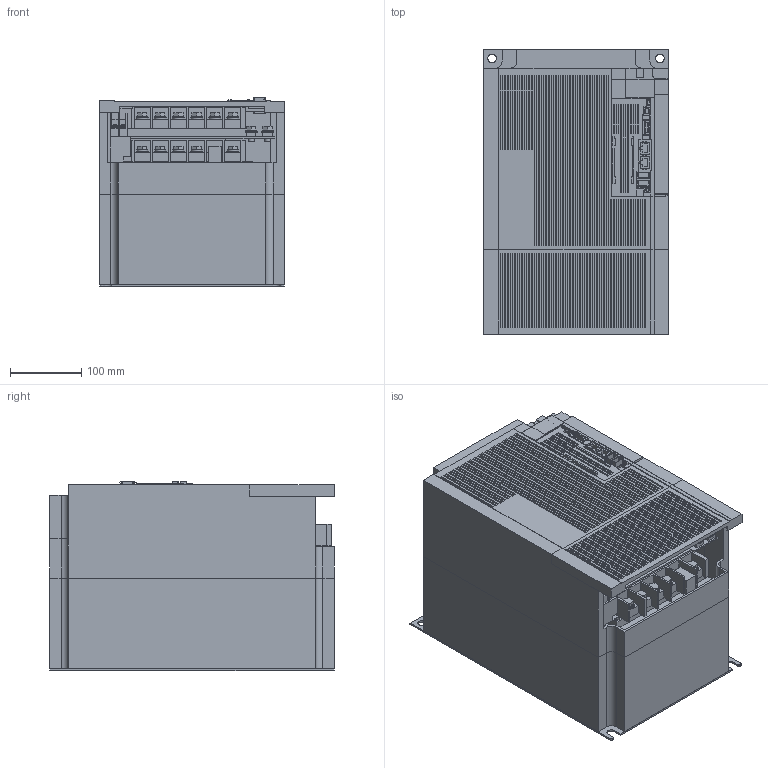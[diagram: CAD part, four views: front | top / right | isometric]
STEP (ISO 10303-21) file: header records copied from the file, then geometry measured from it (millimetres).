
FILE_DESCRIPTION((''),'2;1');
FILE_NAME('MR-J4-22KGFRJA_ASM','2016-04-07T',('ZZ86203'),(''),'PRO/ENGINEER BY PARAMETRIC TECHNOLOGY CORPORATION, 2014310','PRO/ENGINEER BY PARAMETRIC TECHNOLOGY CORPORATION, 2014310','');
FILE_SCHEMA(('CONFIG_CONTROL_DESIGN'));
Length unit declared in the file: millimetre
Products named in the file (22): J4-22K-BASE; J4-22K-CASE1; J4-22K-CASE2; J4-22K-FANCOVER; J4-11-22K-SIDECOVER; J4-22K-TECOVER; J4-22K-BASE2; J4GFRJ-FRONTPANEL; J4GF-LENZ; J4GF-CN1A; J4GF-CN1B; J4GF-CN2; J4GF-CN3; J4GF-CN4; J4GF-CN5; J4GF-CN8; J4-22K-TE1; J4-22K-TE2; FAN92; SW-PW-P-NA-M4X10; SW-PW-P-UP-M8X16; MR-J4-22KGFRJA_ASM
Assembly tree (37 placements, depth 2):
  MR-J4-22KGFRJA_ASM
    J4-22K-BASE
    J4-22K-CASE1
    J4-22K-CASE2
    J4-22K-FANCOVER
    J4-11-22K-SIDECOVER
    J4-22K-TECOVER
    J4-22K-BASE2
    J4GFRJ-FRONTPANEL
    J4GF-LENZ
    J4GF-CN1A
    J4GF-CN1B
    J4GF-CN2  x2
    J4GF-CN3
    J4GF-CN4
    J4GF-CN5
    J4GF-CN8
    J4-22K-TE1  x2
    J4-22K-TE2
    FAN92  x2
    SW-PW-P-NA-M4X10  x2
    SW-PW-P-UP-M8X16  x13
Bounding box: 260 x 400 x 265.95 mm (x, y, z)
Volume: 15030190 mm3; surface area: 1474309 mm2
Topology: 39 solids, 39 shells, 2011 faces, 5337 edges, 3534 vertices
Faces by surface type: plane 1605, cylinder 394, cone 4, torus 4, sphere 4
Entity records: 51464 total; most frequent: CARTESIAN_POINT 8975, ORIENTED_EDGE 8766, DIRECTION 8339, EDGE_CURVE 4383, VECTOR 3789, LINE 3789, VERTEX_POINT 2911, AXIS2_PLACEMENT_3D 2275
